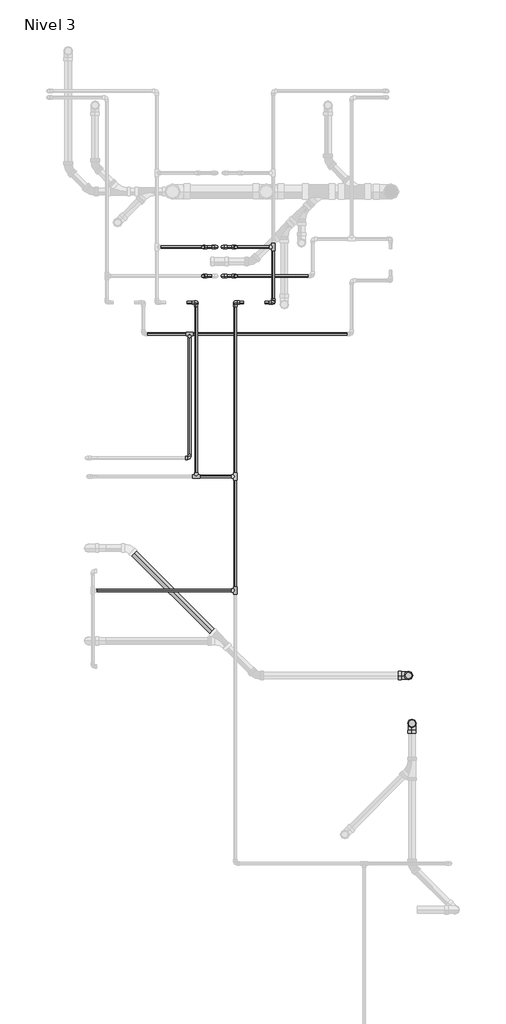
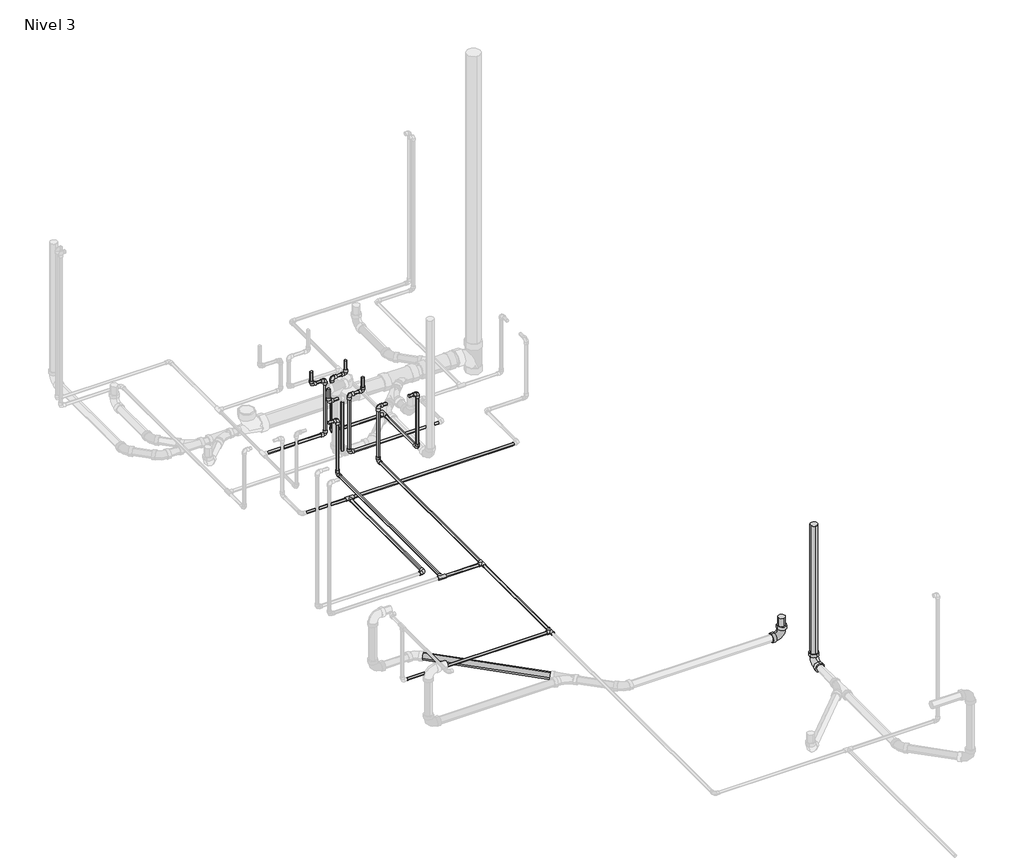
# One storey, part 7 of 9: 33 pipe segments, 24 pipe fittings.
"""IFC4 building model written with IfcOpenShell, lengths in millimetres."""

from ifc_helpers import new_model, si_unit, point, frame, frame_2d, origin, place, context, project, spatial, circle_curve, trimmed, segment, composite_curve, outline, extrude, transform, mapped, element, save
from components import pipe_fitting_ab418b84, m_codo_pvc_serie_40_9ad74631, m_codo_pvc_serie_40_ba05d404, m_codo_pvc_serie_40_dwv1_5c0ec739

model = new_model("IFC4")

# Units and contexts
model_context = context("Model", 3, world=origin())
ifc_project = project(units=[si_unit("LENGTHUNIT", "METRE", prefix="MILLI")], contexts=[model_context])

# Site, building, storey
site = spatial("IfcSite", under=ifc_project)
building = spatial("IfcBuilding", under=site)
storey = spatial("IfcBuildingStorey", under=building, Name="Nivel 3", Elevation=5450.0)

# Pipe fittings
placement = place(None, origin())
pipe_fitting_shape = pipe_fitting_ab418b84(model_context)
element("IfcPipeFitting", 1, ObjectType="M_Te - PVC - Serie 40 : Estándar", at=placement, inside=storey, context=model_context, shape_type="MappedRepresentation", body=[
    mapped(pipe_fitting_shape, transform((4584.5674476, 13135.047678, 5400.0), x_axis=(0.0, -1.0, 0.0), y_axis=(1.0, 0.0, 0.0), z_axis=(0.0, 0.0, 1.0))),
])
element("IfcPipeFitting", 2, ObjectType="M_Te - PVC - Serie 40 : Estándar", at=placement, inside=storey, context=model_context, shape_type="MappedRepresentation", body=[
    mapped(pipe_fitting_shape, transform((4263.6339186, 14068.3044589, 5400.0), x_axis=(1.0, 0.0, 0.0), y_axis=(0.0, -1.0, 0.0), z_axis=(0.0, 0.0, -1.0))),
])
element("IfcPipeFitting", 3, ObjectType="M_Te - PVC - Serie 40 : Estándar", at=placement, inside=storey, context=model_context, shape_type="MappedRepresentation", body=[
    mapped(pipe_fitting_shape, transform((4584.5674476, 14068.3044589, 5400.0), x_axis=(0.0, 1.0, 0.0), y_axis=(1.0, 0.0, 0.0), z_axis=(0.0, 0.0, -1.0))),
])
element("IfcPipeFitting", 4, ObjectType="M_Te - PVC - Serie 40 : Estándar", at=placement, inside=storey, context=model_context, shape_type="MappedRepresentation", body=[
    mapped(pipe_fitting_shape, transform((4894.5674476, 15948.3784167, 5400.0), x_axis=(0.0, -1.0, 0.0), y_axis=(1.0, 0.0, 0.0), z_axis=(0.0, 0.0, 1.0))),
])
element("IfcPipeFitting", 5, ObjectType="M_Te - PVC - Serie 40 : Estándar", at=placement, inside=storey, context=model_context, shape_type="MappedRepresentation", body=[
    mapped(pipe_fitting_shape, transform((4209.5674476, 15236.3878958, 5370.0), x_axis=(1.0, 0.0, 0.0), y_axis=(0.0, 1.0, 0.0), z_axis=(0.0, 0.0, 1.0))),
])
m_codo_pvc_serie_40_shape = m_codo_pvc_serie_40_9ad74631(model_context)
element("IfcPipeFitting", 6, ObjectType="M_Codo - PVC - Serie 40 : Estándar", at=placement, inside=storey, context=model_context, shape_type="MappedRepresentation", body=[
    mapped(m_codo_pvc_serie_40_shape, transform((4320.052369, 15948.3784167, 5850.0), x_axis=(0.0, 0.0, -1.0), y_axis=(1.0, 0.0, 0.0), z_axis=(0.0, -1.0, 0.0))),
])
element("IfcPipeFitting", 7, ObjectType="M_Codo - PVC - Serie 40 : Estándar", at=placement, inside=storey, context=model_context, shape_type="MappedRepresentation", body=[
    mapped(m_codo_pvc_serie_40_shape, transform((4428.802369, 15948.3784167, 5850.0), x_axis=(1.0, 0.0, 0.0), y_axis=(0.0, 0.0, -1.0), z_axis=(0.0, 1.0, 0.0))),
])
element("IfcPipeFitting", 8, ObjectType="M_Codo - PVC - Serie 40 : Estándar", at=placement, inside=storey, context=model_context, shape_type="MappedRepresentation", body=[
    mapped(m_codo_pvc_serie_40_shape, transform((4428.802369, 15948.3784167, 5400.0), x_axis=(0.0, 0.0, -1.0), y_axis=(-1.0, 0.0, 0.0), z_axis=(0.0, 1.0, 0.0))),
])
element("IfcPipeFitting", 9, ObjectType="M_Codo - PVC - Serie 40 : Estándar", at=placement, inside=storey, context=model_context, shape_type="MappedRepresentation", body=[
    mapped(m_codo_pvc_serie_40_shape, transform((4263.6339186, 15493.3784167, 5400.0), x_axis=(0.0, 0.0, -1.0), y_axis=(0.0, -1.0, 0.0), z_axis=(-1.0, 0.0, 0.0))),
])
element("IfcPipeFitting", 10, ObjectType="M_Codo - PVC - Serie 40 : Estándar", at=placement, inside=storey, context=model_context, shape_type="MappedRepresentation", body=[
    mapped(m_codo_pvc_serie_40_shape, transform((4584.5674476, 15493.3784167, 5400.0), x_axis=(0.0, 1.0, 0.0), y_axis=(0.0, 0.0, 1.0), z_axis=(1.0, 0.0, 0.0))),
])
element("IfcPipeFitting", 11, ObjectType="M_Codo - PVC - Serie 40 : Estándar", at=placement, inside=storey, context=model_context, shape_type="MappedRepresentation", body=[
    mapped(m_codo_pvc_serie_40_shape, transform((4584.5674476, 15493.3784167, 5850.0), x_axis=(0.0, 0.0, 1.0), y_axis=(1.0, 0.0, 0.0), z_axis=(0.0, 1.0, 0.0))),
])
element("IfcPipeFitting", 12, ObjectType="M_Codo - PVC - Serie 40 : Estándar", at=placement, inside=storey, context=model_context, shape_type="MappedRepresentation", body=[
    mapped(m_codo_pvc_serie_40_shape, transform((4894.5674476, 15493.3784167, 5850.0), x_axis=(1.0, 0.0, 0.0), y_axis=(0.0, 0.0, -1.0), z_axis=(0.0, 1.0, 0.0))),
])
element("IfcPipeFitting", 13, ObjectType="M_Codo - PVC - Serie 40 : Estándar", at=placement, inside=storey, context=model_context, shape_type="MappedRepresentation", body=[
    mapped(m_codo_pvc_serie_40_shape, transform((4894.5674476, 15493.3784167, 5400.0), x_axis=(0.0, 0.0, -1.0), y_axis=(0.0, 1.0, 0.0), z_axis=(1.0, 0.0, 0.0))),
])
element("IfcPipeFitting", 14, ObjectType="M_Codo - PVC - Serie 40 : Estándar", at=placement, inside=storey, context=model_context, shape_type="MappedRepresentation", body=[
    mapped(m_codo_pvc_serie_40_shape, transform((4263.6339186, 15493.3784167, 5850.0), x_axis=(0.0, 0.0, 1.0), y_axis=(-1.0, 0.0, 0.0), z_axis=(0.0, -1.0, 0.0))),
])
element("IfcPipeFitting", 15, ObjectType="M_Codo - PVC - Serie 40 : Estándar", at=placement, inside=storey, context=model_context, shape_type="MappedRepresentation", body=[
    mapped(m_codo_pvc_serie_40_shape, transform((4589.8538958, 15948.3784167, 5850.0), x_axis=(0.0, 0.0, -1.0), y_axis=(-1.0, 0.0, 0.0), z_axis=(0.0, 1.0, 0.0))),
])
element("IfcPipeFitting", 16, ObjectType="M_Codo - PVC - Serie 40 : Estándar", at=placement, inside=storey, context=model_context, shape_type="MappedRepresentation", body=[
    mapped(m_codo_pvc_serie_40_shape, transform((4482.3538958, 15948.3784167, 5850.0), x_axis=(-1.0, 0.0, 0.0), y_axis=(0.0, 0.0, -1.0), z_axis=(0.0, -1.0, 0.0))),
])
element("IfcPipeFitting", 17, ObjectType="M_Codo - PVC - Serie 40 : Estándar", at=placement, inside=storey, context=model_context, shape_type="MappedRepresentation", body=[
    mapped(m_codo_pvc_serie_40_shape, transform((4482.3538958, 15948.3784167, 5400.0), x_axis=(0.0, 0.0, -1.0), y_axis=(1.0, 0.0, 0.0), z_axis=(0.0, -1.0, 0.0))),
])
element("IfcPipeFitting", 18, ObjectType="M_Codo - PVC - Serie 40 : Estándar", at=placement, inside=storey, context=model_context, shape_type="MappedRepresentation", body=[
    mapped(m_codo_pvc_serie_40_shape, transform((4209.5674476, 14218.3044589, 5370.0), x_axis=(1.0, 0.0, 0.0), y_axis=(0.0, 1.0, 0.0), z_axis=(0.0, 0.0, 1.0))),
])
element("IfcPipeFitting", 19, ObjectType="M_Codo - PVC - Serie 40 : Estándar", at=placement, inside=storey, context=model_context, shape_type="MappedRepresentation", body=[
    mapped(m_codo_pvc_serie_40_shape, transform((4482.3538958, 15711.6215833, 5370.0), x_axis=(0.0, 0.0, -1.0), y_axis=(1.0, 0.0, 0.0), z_axis=(0.0, -1.0, 0.0))),
])
m_codo_pvc_serie_40_2_shape = m_codo_pvc_serie_40_ba05d404(model_context)
element("IfcPipeFitting", 20, ObjectType="M_Codo - PVC - Serie 40 : Estándar", at=placement, inside=storey, context=model_context, shape_type="MappedRepresentation", body=[
    mapped(m_codo_pvc_serie_40_2_shape, transform((4589.8538958, 15711.6215833, 5850.0), x_axis=(0.0, 0.0, -1.0), y_axis=(1.0, 0.0, 0.0), z_axis=(0.0, -1.0, 0.0))),
])
element("IfcPipeFitting", 21, ObjectType="M_Codo - PVC - Serie 40 : Estándar", at=placement, inside=storey, context=model_context, shape_type="MappedRepresentation", body=[
    mapped(m_codo_pvc_serie_40_2_shape, transform((4482.3538958, 15711.6215833, 5850.0), x_axis=(-1.0, 0.0, 0.0), y_axis=(0.0, 0.0, 1.0), z_axis=(0.0, 1.0, 0.0))),
])
element("IfcPipeFitting", 22, ObjectType="M_Codo - PVC - Serie 40 : Estándar", at=placement, inside=storey, context=model_context, shape_type="MappedRepresentation", body=[
    mapped(m_codo_pvc_serie_40_2_shape, transform((4320.052369, 15711.6215833, 5850.0), x_axis=(0.0, 0.0, -1.0), y_axis=(-1.0, 0.0, 0.0), z_axis=(0.0, 1.0, 0.0))),
])
m_codo_pvc_serie_40_dwv1_shape = m_codo_pvc_serie_40_dwv1_5c0ec739(model_context)
element("IfcPipeFitting", 23, ObjectType="M_Codo - PVC - Serie 40 - DWV1 : Estándar 2", at=placement, inside=storey, context=model_context, shape_type="MappedRepresentation", body=[
    mapped(m_codo_pvc_serie_40_dwv1_shape, transform((6034.2551231, 12044.3420457, 5300.0), x_axis=(0.0, 1.0, 0.0), y_axis=(0.0, 0.0, 1.0), z_axis=(1.0, 0.0, 0.0))),
])
element("IfcPipeFitting", 24, ObjectType="M_Codo - PVC - Serie 40 - DWV1 : Estándar 2", at=placement, inside=storey, context=model_context, shape_type="MappedRepresentation", body=[
    mapped(m_codo_pvc_serie_40_dwv1_shape, transform((6005.8120302, 12436.942368, 5300.0), x_axis=(1.0, 0.0, 0.0), y_axis=(0.0, 0.0, 1.0), z_axis=(0.0, -1.0, 0.0))),
])

# Pipe segments
element("IfcPipeSegment", 25, ObjectType="Tuberia PVC Agua Fria", at=placement, inside=storey, context=model_context, shape_type="SweptSolid", body=[
    extrude(outline(composite_curve([segment(trimmed(circle_curve(frame_2d((5400.0, 4584.5674476)), 10.31875), [point((5400.0, 4594.8861976))], [point((5410.31875, 4584.5674476))], False, "CARTESIAN"), True, "CONTINUOUS"), segment(trimmed(circle_curve(frame_2d((5400.0, 4584.5674476)), 10.31875), [point((5410.31875, 4584.5674476))], [point((5400.0, 4574.2486976))], False, "CARTESIAN"), True, "CONTINUOUS"), segment(trimmed(circle_curve(frame_2d((5400.0, 4584.5674476)), 10.31875), [point((5400.0, 4574.2486976))], [point((5389.68125, 4584.5674476))], False, "CARTESIAN"), True, "CONTINUOUS"), segment(trimmed(circle_curve(frame_2d((5400.0, 4584.5674476)), 10.31875), [point((5389.68125, 4584.5674476))], [point((5400.0, 4594.8861976))], False, "CARTESIAN"), True, "CONTINUOUS")], self_intersect=False)), frame((0.0, 13165.5078343, 0.0), z_axis=(0.0, 1.0, 0.0), x_axis=(0.0, 0.0, 1.0)), (0.0, 0.0, 1.0), 872.3364684),
])
element("IfcPipeSegment", 26, ObjectType="Tuberia PVC Agua Fria", at=placement, inside=storey, context=model_context, shape_type="SweptSolid", body=[
    extrude(outline(composite_curve([segment(trimmed(circle_curve(frame_2d((13135.047678, 5400.0)), 10.31875), [point((13145.366428, 5400.0))], [point((13135.047678, 5389.68125))], False, "CARTESIAN"), True, "CONTINUOUS"), segment(trimmed(circle_curve(frame_2d((13135.047678, 5400.0)), 10.31875), [point((13135.047678, 5389.68125))], [point((13124.728928, 5400.0))], False, "CARTESIAN"), True, "CONTINUOUS"), segment(trimmed(circle_curve(frame_2d((13135.047678, 5400.0)), 10.31875), [point((13124.728928, 5400.0))], [point((13135.047678, 5410.31875))], False, "CARTESIAN"), True, "CONTINUOUS"), segment(trimmed(circle_curve(frame_2d((13135.047678, 5400.0)), 10.31875), [point((13135.047678, 5410.31875))], [point((13145.366428, 5400.0))], False, "CARTESIAN"), True, "CONTINUOUS")], self_intersect=False)), frame((3447.9684476, 0.0, 0.0), z_axis=(1.0, 0.0, 0.0), x_axis=(0.0, 1.0, 0.0)), (0.0, 0.0, 1.0), 1106.1388437),
])
element("IfcPipeSegment", 27, ObjectType="Tuberia PVC Agua Fria", at=placement, inside=storey, context=model_context, shape_type="SweptSolid", body=[
    extrude(outline(composite_curve([segment(trimmed(circle_curve(frame_2d((15948.3784167, 5850.0)), 10.31875), [point((15938.0596667, 5850.0))], [point((15948.3784167, 5860.31875))], False, "CARTESIAN"), True, "CONTINUOUS"), segment(trimmed(circle_curve(frame_2d((15948.3784167, 5850.0)), 10.31875), [point((15948.3784167, 5860.31875))], [point((15958.6971667, 5850.0))], False, "CARTESIAN"), True, "CONTINUOUS"), segment(trimmed(circle_curve(frame_2d((15948.3784167, 5850.0)), 10.31875), [point((15958.6971667, 5850.0))], [point((15948.3784167, 5839.68125))], False, "CARTESIAN"), True, "CONTINUOUS"), segment(trimmed(circle_curve(frame_2d((15948.3784167, 5850.0)), 10.31875), [point((15948.3784167, 5839.68125))], [point((15938.0596667, 5850.0))], False, "CARTESIAN"), True, "CONTINUOUS")], self_intersect=False)), frame((4353.453369, 0.0, 0.0), z_axis=(1.0, 0.0, 0.0), x_axis=(0.0, 1.0, 0.0)), (0.0, 0.0, 1.0), 41.948),
])
element("IfcPipeSegment", 28, ObjectType="Tuberia PVC Agua Fria", at=placement, inside=storey, context=model_context, shape_type="SweptSolid", body=[
    extrude(outline(composite_curve([segment(trimmed(circle_curve(frame_2d((4320.052369, 15948.3784167)), 10.31875), [point((4330.371119, 15948.3784167))], [point((4320.052369, 15938.0596667))], False, "CARTESIAN"), True, "CONTINUOUS"), segment(trimmed(circle_curve(frame_2d((4320.052369, 15948.3784167)), 10.31875), [point((4320.052369, 15938.0596667))], [point((4309.733619, 15948.3784167))], False, "CARTESIAN"), True, "CONTINUOUS"), segment(trimmed(circle_curve(frame_2d((4320.052369, 15948.3784167)), 10.31875), [point((4309.733619, 15948.3784167))], [point((4320.052369, 15958.6971667))], False, "CARTESIAN"), True, "CONTINUOUS"), segment(trimmed(circle_curve(frame_2d((4320.052369, 15948.3784167)), 10.31875), [point((4320.052369, 15958.6971667))], [point((4330.371119, 15948.3784167))], False, "CARTESIAN"), True, "CONTINUOUS")], self_intersect=False)), frame((0.0, 0.0, 5883.401), z_axis=(0.0, 0.0, 1.0), x_axis=(1.0, 0.0, 0.0)), (0.0, 0.0, 1.0), 74.0983614),
])
element("IfcPipeSegment", 29, ObjectType="Tuberia PVC Agua Fria", at=placement, inside=storey, context=model_context, shape_type="SweptSolid", body=[
    extrude(outline(composite_curve([segment(trimmed(circle_curve(frame_2d((15948.3784167, 5400.0)), 10.31875), [point((15958.6971667, 5400.0))], [point((15948.3784167, 5389.68125))], False, "CARTESIAN"), True, "CONTINUOUS"), segment(trimmed(circle_curve(frame_2d((15948.3784167, 5400.0)), 10.31875), [point((15948.3784167, 5389.68125))], [point((15938.0596667, 5400.0))], False, "CARTESIAN"), True, "CONTINUOUS"), segment(trimmed(circle_curve(frame_2d((15948.3784167, 5400.0)), 10.31875), [point((15938.0596667, 5400.0))], [point((15948.3784167, 5410.31875))], False, "CARTESIAN"), True, "CONTINUOUS"), segment(trimmed(circle_curve(frame_2d((15948.3784167, 5400.0)), 10.31875), [point((15948.3784167, 5410.31875))], [point((15958.6971667, 5400.0))], False, "CARTESIAN"), True, "CONTINUOUS")], self_intersect=False)), frame((3970.5125253, 0.0, 0.0), z_axis=(1.0, 0.0, 0.0), x_axis=(0.0, 1.0, 0.0)), (0.0, 0.0, 1.0), 424.8888438),
])
element("IfcPipeSegment", 30, ObjectType="Tuberia PVC Agua Fria", at=placement, inside=storey, context=model_context, shape_type="SweptSolid", body=[
    extrude(outline(composite_curve([segment(trimmed(circle_curve(frame_2d((4428.802369, 15948.3784167)), 10.31875), [point((4439.121119, 15948.3784167))], [point((4428.802369, 15938.0596667))], False, "CARTESIAN"), True, "CONTINUOUS"), segment(trimmed(circle_curve(frame_2d((4428.802369, 15948.3784167)), 10.31875), [point((4428.802369, 15938.0596667))], [point((4418.483619, 15948.3784167))], False, "CARTESIAN"), True, "CONTINUOUS"), segment(trimmed(circle_curve(frame_2d((4428.802369, 15948.3784167)), 10.31875), [point((4418.483619, 15948.3784167))], [point((4428.802369, 15958.6971667))], False, "CARTESIAN"), True, "CONTINUOUS"), segment(trimmed(circle_curve(frame_2d((4428.802369, 15948.3784167)), 10.31875), [point((4428.802369, 15958.6971667))], [point((4439.121119, 15948.3784167))], False, "CARTESIAN"), True, "CONTINUOUS")], self_intersect=False)), frame((0.0, 0.0, 5433.401), z_axis=(0.0, 0.0, 1.0), x_axis=(1.0, 0.0, 0.0)), (0.0, 0.0, 1.0), 383.198),
])
element("IfcPipeSegment", 31, ObjectType="Tuberia PVC Agua Fria", at=placement, inside=storey, context=model_context, shape_type="SweptSolid", body=[
    extrude(outline(composite_curve([segment(trimmed(circle_curve(frame_2d((5400.0, 4263.6339186)), 10.31875), [point((5400.0, 4273.9526686))], [point((5410.31875, 4263.6339186))], False, "CARTESIAN"), True, "CONTINUOUS"), segment(trimmed(circle_curve(frame_2d((5400.0, 4263.6339186)), 10.31875), [point((5410.31875, 4263.6339186))], [point((5400.0, 4253.3151686))], False, "CARTESIAN"), True, "CONTINUOUS"), segment(trimmed(circle_curve(frame_2d((5400.0, 4263.6339186)), 10.31875), [point((5400.0, 4253.3151686))], [point((5389.68125, 4263.6339186))], False, "CARTESIAN"), True, "CONTINUOUS"), segment(trimmed(circle_curve(frame_2d((5400.0, 4263.6339186)), 10.31875), [point((5389.68125, 4263.6339186))], [point((5400.0, 4273.9526686))], False, "CARTESIAN"), True, "CONTINUOUS")], self_intersect=False)), frame((0.0, 14098.7646151, 0.0), z_axis=(0.0, 1.0, 0.0), x_axis=(0.0, 0.0, 1.0)), (0.0, 0.0, 1.0), 1361.2128015),
])
element("IfcPipeSegment", 32, ObjectType="Tuberia PVC Agua Fria", at=placement, inside=storey, context=model_context, shape_type="SweptSolid", body=[
    extrude(outline(composite_curve([segment(trimmed(circle_curve(frame_2d((4263.6339186, 15493.3784167)), 10.31875), [point((4273.9526686, 15493.3784167))], [point((4263.6339186, 15483.0596667))], False, "CARTESIAN"), True, "CONTINUOUS"), segment(trimmed(circle_curve(frame_2d((4263.6339186, 15493.3784167)), 10.31875), [point((4263.6339186, 15483.0596667))], [point((4253.3151686, 15493.3784167))], False, "CARTESIAN"), True, "CONTINUOUS"), segment(trimmed(circle_curve(frame_2d((4263.6339186, 15493.3784167)), 10.31875), [point((4253.3151686, 15493.3784167))], [point((4263.6339186, 15503.6971667))], False, "CARTESIAN"), True, "CONTINUOUS"), segment(trimmed(circle_curve(frame_2d((4263.6339186, 15493.3784167)), 10.31875), [point((4263.6339186, 15503.6971667))], [point((4273.9526686, 15493.3784167))], False, "CARTESIAN"), True, "CONTINUOUS")], self_intersect=False)), frame((0.0, 0.0, 5433.401), z_axis=(0.0, 0.0, 1.0), x_axis=(1.0, 0.0, 0.0)), (0.0, 0.0, 1.0), 383.198),
])
element("IfcPipeSegment", 33, ObjectType="Tuberia PVC Agua Fria", at=placement, inside=storey, context=model_context, shape_type="SweptSolid", body=[
    extrude(outline(composite_curve([segment(trimmed(circle_curve(frame_2d((14068.3044589, 5400.0)), 10.31875), [point((14078.6232089, 5400.0))], [point((14068.3044589, 5389.68125))], False, "CARTESIAN"), True, "CONTINUOUS"), segment(trimmed(circle_curve(frame_2d((14068.3044589, 5400.0)), 10.31875), [point((14068.3044589, 5389.68125))], [point((14057.9857089, 5400.0))], False, "CARTESIAN"), True, "CONTINUOUS"), segment(trimmed(circle_curve(frame_2d((14068.3044589, 5400.0)), 10.31875), [point((14057.9857089, 5400.0))], [point((14068.3044589, 5410.31875))], False, "CARTESIAN"), True, "CONTINUOUS"), segment(trimmed(circle_curve(frame_2d((14068.3044589, 5400.0)), 10.31875), [point((14068.3044589, 5410.31875))], [point((14078.6232089, 5400.0))], False, "CARTESIAN"), True, "CONTINUOUS")], self_intersect=False)), frame((4294.0940748, 0.0, 0.0), z_axis=(1.0, 0.0, 0.0), x_axis=(0.0, 1.0, 0.0)), (0.0, 0.0, 1.0), 260.0132166),
])
element("IfcPipeSegment", 34, ObjectType="Tuberia PVC Agua Fria", at=placement, inside=storey, context=model_context, shape_type="SweptSolid", body=[
    extrude(outline(composite_curve([segment(trimmed(circle_curve(frame_2d((15493.3784167, 5850.0)), 10.31875), [point((15483.0596667, 5850.0))], [point((15493.3784167, 5860.31875))], False, "CARTESIAN"), True, "CONTINUOUS"), segment(trimmed(circle_curve(frame_2d((15493.3784167, 5850.0)), 10.31875), [point((15493.3784167, 5860.31875))], [point((15503.6971667, 5850.0))], False, "CARTESIAN"), True, "CONTINUOUS"), segment(trimmed(circle_curve(frame_2d((15493.3784167, 5850.0)), 10.31875), [point((15503.6971667, 5850.0))], [point((15493.3784167, 5839.68125))], False, "CARTESIAN"), True, "CONTINUOUS"), segment(trimmed(circle_curve(frame_2d((15493.3784167, 5850.0)), 10.31875), [point((15493.3784167, 5839.68125))], [point((15483.0596667, 5850.0))], False, "CARTESIAN"), True, "CONTINUOUS")], self_intersect=False)), frame((4190.8431438, 0.0, 0.0), z_axis=(1.0, 0.0, 0.0), x_axis=(0.0, 1.0, 0.0)), (0.0, 0.0, 1.0), 39.3897748),
])
element("IfcPipeSegment", 35, ObjectType="Tuberia PVC Agua Fria", at=placement, inside=storey, context=model_context, shape_type="SweptSolid", body=[
    extrude(outline(composite_curve([segment(trimmed(circle_curve(frame_2d((5400.0, 4584.5674476)), 10.31875), [point((5400.0, 4594.8861976))], [point((5410.31875, 4584.5674476))], False, "CARTESIAN"), True, "CONTINUOUS"), segment(trimmed(circle_curve(frame_2d((5400.0, 4584.5674476)), 10.31875), [point((5410.31875, 4584.5674476))], [point((5400.0, 4574.2486976))], False, "CARTESIAN"), True, "CONTINUOUS"), segment(trimmed(circle_curve(frame_2d((5400.0, 4584.5674476)), 10.31875), [point((5400.0, 4574.2486976))], [point((5389.68125, 4584.5674476))], False, "CARTESIAN"), True, "CONTINUOUS"), segment(trimmed(circle_curve(frame_2d((5400.0, 4584.5674476)), 10.31875), [point((5389.68125, 4584.5674476))], [point((5400.0, 4594.8861976))], False, "CARTESIAN"), True, "CONTINUOUS")], self_intersect=False)), frame((0.0, 14098.7646151, 0.0), z_axis=(0.0, 1.0, 0.0), x_axis=(0.0, 0.0, 1.0)), (0.0, 0.0, 1.0), 1361.2128015),
])
element("IfcPipeSegment", 36, ObjectType="Tuberia PVC Agua Fria", at=placement, inside=storey, context=model_context, shape_type="SweptSolid", body=[
    extrude(outline(composite_curve([segment(trimmed(circle_curve(frame_2d((15493.3784167, 5850.0)), 10.31875), [point((15483.0596667, 5850.0))], [point((15493.3784167, 5860.31875))], False, "CARTESIAN"), True, "CONTINUOUS"), segment(trimmed(circle_curve(frame_2d((15493.3784167, 5850.0)), 10.31875), [point((15493.3784167, 5860.31875))], [point((15503.6971667, 5850.0))], False, "CARTESIAN"), True, "CONTINUOUS"), segment(trimmed(circle_curve(frame_2d((15493.3784167, 5850.0)), 10.31875), [point((15503.6971667, 5850.0))], [point((15493.3784167, 5839.68125))], False, "CARTESIAN"), True, "CONTINUOUS"), segment(trimmed(circle_curve(frame_2d((15493.3784167, 5850.0)), 10.31875), [point((15493.3784167, 5839.68125))], [point((15483.0596667, 5850.0))], False, "CARTESIAN"), True, "CONTINUOUS")], self_intersect=False)), frame((4828.3535926, 0.0, 0.0), z_axis=(1.0, 0.0, 0.0), x_axis=(0.0, 1.0, 0.0)), (0.0, 0.0, 1.0), 32.812855),
])
element("IfcPipeSegment", 37, ObjectType="Tuberia PVC Agua Fria", at=placement, inside=storey, context=model_context, shape_type="SweptSolid", body=[
    extrude(outline(composite_curve([segment(trimmed(circle_curve(frame_2d((4584.5674476, 15493.3784167)), 10.31875), [point((4574.2486976, 15493.3784167))], [point((4584.5674476, 15503.6971667))], False, "CARTESIAN"), True, "CONTINUOUS"), segment(trimmed(circle_curve(frame_2d((4584.5674476, 15493.3784167)), 10.31875), [point((4584.5674476, 15503.6971667))], [point((4594.8861976, 15493.3784167))], False, "CARTESIAN"), True, "CONTINUOUS"), segment(trimmed(circle_curve(frame_2d((4584.5674476, 15493.3784167)), 10.31875), [point((4594.8861976, 15493.3784167))], [point((4584.5674476, 15483.0596667))], False, "CARTESIAN"), True, "CONTINUOUS"), segment(trimmed(circle_curve(frame_2d((4584.5674476, 15493.3784167)), 10.31875), [point((4584.5674476, 15483.0596667))], [point((4574.2486976, 15493.3784167))], False, "CARTESIAN"), True, "CONTINUOUS")], self_intersect=False)), frame((0.0, 0.0, 5433.401), z_axis=(0.0, 0.0, 1.0), x_axis=(1.0, 0.0, 0.0)), (0.0, 0.0, 1.0), 383.198),
])
element("IfcPipeSegment", 38, ObjectType="Tuberia PVC Agua Fria", at=placement, inside=storey, context=model_context, shape_type="SweptSolid", body=[
    extrude(outline(composite_curve([segment(trimmed(circle_curve(frame_2d((4894.5674476, 15493.3784167)), 10.31875), [point((4904.8861976, 15493.3784167))], [point((4894.5674476, 15483.0596667))], False, "CARTESIAN"), True, "CONTINUOUS"), segment(trimmed(circle_curve(frame_2d((4894.5674476, 15493.3784167)), 10.31875), [point((4894.5674476, 15483.0596667))], [point((4884.2486976, 15493.3784167))], False, "CARTESIAN"), True, "CONTINUOUS"), segment(trimmed(circle_curve(frame_2d((4894.5674476, 15493.3784167)), 10.31875), [point((4884.2486976, 15493.3784167))], [point((4894.5674476, 15503.6971667))], False, "CARTESIAN"), True, "CONTINUOUS"), segment(trimmed(circle_curve(frame_2d((4894.5674476, 15493.3784167)), 10.31875), [point((4894.5674476, 15503.6971667))], [point((4904.8861976, 15493.3784167))], False, "CARTESIAN"), True, "CONTINUOUS")], self_intersect=False)), frame((0.0, 0.0, 5433.401), z_axis=(0.0, 0.0, 1.0), x_axis=(1.0, 0.0, 0.0)), (0.0, 0.0, 1.0), 383.198),
])
element("IfcPipeSegment", 39, ObjectType="Tuberia PVC Agua Fria", at=placement, inside=storey, context=model_context, shape_type="SweptSolid", body=[
    extrude(outline(composite_curve([segment(trimmed(circle_curve(frame_2d((15948.3784167, 5850.0)), 10.31875), [point((15958.6971667, 5850.0))], [point((15948.3784167, 5839.68125))], False, "CARTESIAN"), True, "CONTINUOUS"), segment(trimmed(circle_curve(frame_2d((15948.3784167, 5850.0)), 10.31875), [point((15948.3784167, 5839.68125))], [point((15938.0596667, 5850.0))], False, "CARTESIAN"), True, "CONTINUOUS"), segment(trimmed(circle_curve(frame_2d((15948.3784167, 5850.0)), 10.31875), [point((15938.0596667, 5850.0))], [point((15948.3784167, 5860.31875))], False, "CARTESIAN"), True, "CONTINUOUS"), segment(trimmed(circle_curve(frame_2d((15948.3784167, 5850.0)), 10.31875), [point((15948.3784167, 5860.31875))], [point((15958.6971667, 5850.0))], False, "CARTESIAN"), True, "CONTINUOUS")], self_intersect=False)), frame((4515.7548958, 0.0, 0.0), z_axis=(1.0, 0.0, 0.0), x_axis=(0.0, 1.0, 0.0)), (0.0, 0.0, 1.0), 40.698),
])
element("IfcPipeSegment", 40, ObjectType="Tuberia PVC Agua Fria", at=placement, inside=storey, context=model_context, shape_type="SweptSolid", body=[
    extrude(outline(composite_curve([segment(trimmed(circle_curve(frame_2d((4589.8538958, 15948.3784167)), 10.31875), [point((4600.1726458, 15948.3784167))], [point((4589.8538958, 15938.0596667))], False, "CARTESIAN"), True, "CONTINUOUS"), segment(trimmed(circle_curve(frame_2d((4589.8538958, 15948.3784167)), 10.31875), [point((4589.8538958, 15938.0596667))], [point((4579.5351458, 15948.3784167))], False, "CARTESIAN"), True, "CONTINUOUS"), segment(trimmed(circle_curve(frame_2d((4589.8538958, 15948.3784167)), 10.31875), [point((4579.5351458, 15948.3784167))], [point((4589.8538958, 15958.6971667))], False, "CARTESIAN"), True, "CONTINUOUS"), segment(trimmed(circle_curve(frame_2d((4589.8538958, 15948.3784167)), 10.31875), [point((4589.8538958, 15958.6971667))], [point((4600.1726458, 15948.3784167))], False, "CARTESIAN"), True, "CONTINUOUS")], self_intersect=False)), frame((0.0, 0.0, 5883.401), z_axis=(0.0, 0.0, 1.0), x_axis=(1.0, 0.0, 0.0)), (0.0, 0.0, 1.0), 74.0983614),
])
element("IfcPipeSegment", 41, ObjectType="Tuberia PVC Agua Fria", at=placement, inside=storey, context=model_context, shape_type="SweptSolid", body=[
    extrude(outline(composite_curve([segment(trimmed(circle_curve(frame_2d((15948.3784167, 5400.0)), 10.31875), [point((15938.0596667, 5400.0))], [point((15948.3784167, 5410.31875))], False, "CARTESIAN"), True, "CONTINUOUS"), segment(trimmed(circle_curve(frame_2d((15948.3784167, 5400.0)), 10.31875), [point((15948.3784167, 5410.31875))], [point((15958.6971667, 5400.0))], False, "CARTESIAN"), True, "CONTINUOUS"), segment(trimmed(circle_curve(frame_2d((15948.3784167, 5400.0)), 10.31875), [point((15958.6971667, 5400.0))], [point((15948.3784167, 5389.68125))], False, "CARTESIAN"), True, "CONTINUOUS"), segment(trimmed(circle_curve(frame_2d((15948.3784167, 5400.0)), 10.31875), [point((15948.3784167, 5389.68125))], [point((15938.0596667, 5400.0))], False, "CARTESIAN"), True, "CONTINUOUS")], self_intersect=False)), frame((4515.7548958, 0.0, 0.0), z_axis=(1.0, 0.0, 0.0), x_axis=(0.0, 1.0, 0.0)), (0.0, 0.0, 1.0), 348.3523956),
])
element("IfcPipeSegment", 42, ObjectType="Tuberia PVC Agua Fria", at=placement, inside=storey, context=model_context, shape_type="SweptSolid", body=[
    extrude(outline(composite_curve([segment(trimmed(circle_curve(frame_2d((4482.3538958, 15948.3784167)), 10.31875), [point((4492.6726458, 15948.3784167))], [point((4482.3538958, 15938.0596667))], False, "CARTESIAN"), True, "CONTINUOUS"), segment(trimmed(circle_curve(frame_2d((4482.3538958, 15948.3784167)), 10.31875), [point((4482.3538958, 15938.0596667))], [point((4472.0351458, 15948.3784167))], False, "CARTESIAN"), True, "CONTINUOUS"), segment(trimmed(circle_curve(frame_2d((4482.3538958, 15948.3784167)), 10.31875), [point((4472.0351458, 15948.3784167))], [point((4482.3538958, 15958.6971667))], False, "CARTESIAN"), True, "CONTINUOUS"), segment(trimmed(circle_curve(frame_2d((4482.3538958, 15948.3784167)), 10.31875), [point((4482.3538958, 15958.6971667))], [point((4492.6726458, 15948.3784167))], False, "CARTESIAN"), True, "CONTINUOUS")], self_intersect=False)), frame((0.0, 0.0, 5433.401), z_axis=(0.0, 0.0, 1.0), x_axis=(1.0, 0.0, 0.0)), (0.0, 0.0, 1.0), 383.198),
])
element("IfcPipeSegment", 43, ObjectType="Tuberia PVC Agua Fria", at=placement, inside=storey, context=model_context, shape_type="SweptSolid", body=[
    extrude(outline(composite_curve([segment(trimmed(circle_curve(frame_2d((5400.0, 4894.5674476)), 10.31875), [point((5400.0, 4904.8861976))], [point((5410.31875, 4894.5674476))], False, "CARTESIAN"), True, "CONTINUOUS"), segment(trimmed(circle_curve(frame_2d((5400.0, 4894.5674476)), 10.31875), [point((5410.31875, 4894.5674476))], [point((5400.0, 4884.2486976))], False, "CARTESIAN"), True, "CONTINUOUS"), segment(trimmed(circle_curve(frame_2d((5400.0, 4894.5674476)), 10.31875), [point((5400.0, 4884.2486976))], [point((5389.68125, 4894.5674476))], False, "CARTESIAN"), True, "CONTINUOUS"), segment(trimmed(circle_curve(frame_2d((5400.0, 4894.5674476)), 10.31875), [point((5389.68125, 4894.5674476))], [point((5400.0, 4904.8861976))], False, "CARTESIAN"), True, "CONTINUOUS")], self_intersect=False)), frame((0.0, 15526.7794167, 0.0), z_axis=(0.0, 1.0, 0.0), x_axis=(0.0, 0.0, 1.0)), (0.0, 0.0, 1.0), 391.1388437),
])
element("IfcPipeSegment", 44, ObjectType="Tuberia PVC Agua Fria", at=placement, inside=storey, context=model_context, shape_type="SweptSolid", body=[
    extrude(outline(composite_curve([segment(trimmed(circle_curve(frame_2d((15493.3784167, 5850.0)), 10.31875), [point((15483.0596667, 5850.0))], [point((15493.3784167, 5860.31875))], False, "CARTESIAN"), True, "CONTINUOUS"), segment(trimmed(circle_curve(frame_2d((15493.3784167, 5850.0)), 10.31875), [point((15493.3784167, 5860.31875))], [point((15503.6971667, 5850.0))], False, "CARTESIAN"), True, "CONTINUOUS"), segment(trimmed(circle_curve(frame_2d((15493.3784167, 5850.0)), 10.31875), [point((15503.6971667, 5850.0))], [point((15493.3784167, 5839.68125))], False, "CARTESIAN"), True, "CONTINUOUS"), segment(trimmed(circle_curve(frame_2d((15493.3784167, 5850.0)), 10.31875), [point((15493.3784167, 5839.68125))], [point((15483.0596667, 5850.0))], False, "CARTESIAN"), True, "CONTINUOUS")], self_intersect=False)), frame((4617.9684476, 0.0, 0.0), z_axis=(1.0, 0.0, 0.0), x_axis=(0.0, 1.0, 0.0)), (0.0, 0.0, 1.0), 32.385145),
])
element("IfcPipeSegment", 45, ObjectType="Tuberia PVC Agua Caliente", at=placement, inside=storey, context=model_context, shape_type="SweptSolid", body=[
    extrude(outline(composite_curve([segment(trimmed(circle_curve(frame_2d((5370.0, 4209.5674476)), 10.31875), [point((5370.0, 4219.8861976))], [point((5380.31875, 4209.5674476))], False, "CARTESIAN"), True, "CONTINUOUS"), segment(trimmed(circle_curve(frame_2d((5370.0, 4209.5674476)), 10.31875), [point((5380.31875, 4209.5674476))], [point((5370.0, 4199.2486976))], False, "CARTESIAN"), True, "CONTINUOUS"), segment(trimmed(circle_curve(frame_2d((5370.0, 4209.5674476)), 10.31875), [point((5370.0, 4199.2486976))], [point((5359.68125, 4209.5674476))], False, "CARTESIAN"), True, "CONTINUOUS"), segment(trimmed(circle_curve(frame_2d((5370.0, 4209.5674476)), 10.31875), [point((5359.68125, 4209.5674476))], [point((5370.0, 4219.8861976))], False, "CARTESIAN"), True, "CONTINUOUS")], self_intersect=False)), frame((0.0, 14251.7054589, 0.0), z_axis=(0.0, 1.0, 0.0), x_axis=(0.0, 0.0, 1.0)), (0.0, 0.0, 1.0), 954.2222806),
])
element("IfcPipeSegment", 46, ObjectType="Tuberia PVC Agua Caliente", at=placement, inside=storey, context=model_context, shape_type="SweptSolid", body=[
    extrude(outline(composite_curve([segment(trimmed(circle_curve(frame_2d((15236.3878958, 5370.0)), 10.31875), [point((15246.7066458, 5370.0))], [point((15236.3878958, 5359.68125))], False, "CARTESIAN"), True, "CONTINUOUS"), segment(trimmed(circle_curve(frame_2d((15236.3878958, 5370.0)), 10.31875), [point((15236.3878958, 5359.68125))], [point((15226.0691458, 5370.0))], False, "CARTESIAN"), True, "CONTINUOUS"), segment(trimmed(circle_curve(frame_2d((15236.3878958, 5370.0)), 10.31875), [point((15226.0691458, 5370.0))], [point((15236.3878958, 5380.31875))], False, "CARTESIAN"), True, "CONTINUOUS"), segment(trimmed(circle_curve(frame_2d((15236.3878958, 5370.0)), 10.31875), [point((15236.3878958, 5380.31875))], [point((15246.7066458, 5370.0))], False, "CARTESIAN"), True, "CONTINUOUS")], self_intersect=False)), frame((3862.9684476, 0.0, 0.0), z_axis=(1.0, 0.0, 0.0), x_axis=(0.0, 1.0, 0.0)), (0.0, 0.0, 1.0), 316.1388438),
])
element("IfcPipeSegment", 47, ObjectType="Tuberia PVC Agua Caliente", at=placement, inside=storey, context=model_context, shape_type="SweptSolid", body=[
    extrude(outline(composite_curve([segment(trimmed(circle_curve(frame_2d((15236.3878958, 5370.0)), 10.31875), [point((15226.0691458, 5370.0))], [point((15236.3878958, 5380.31875))], False, "CARTESIAN"), True, "CONTINUOUS"), segment(trimmed(circle_curve(frame_2d((15236.3878958, 5370.0)), 10.31875), [point((15236.3878958, 5380.31875))], [point((15246.7066458, 5370.0))], False, "CARTESIAN"), True, "CONTINUOUS"), segment(trimmed(circle_curve(frame_2d((15236.3878958, 5370.0)), 10.31875), [point((15246.7066458, 5370.0))], [point((15236.3878958, 5359.68125))], False, "CARTESIAN"), True, "CONTINUOUS"), segment(trimmed(circle_curve(frame_2d((15236.3878958, 5370.0)), 10.31875), [point((15236.3878958, 5359.68125))], [point((15226.0691458, 5370.0))], False, "CARTESIAN"), True, "CONTINUOUS")], self_intersect=False)), frame((4240.0276039, 0.0, 0.0), z_axis=(1.0, 0.0, 0.0), x_axis=(0.0, 1.0, 0.0)), (0.0, 0.0, 1.0), 1266.599),
])
element("IfcPipeSegment", 48, ObjectType="Tuberia PVC Agua Caliente", at=placement, inside=storey, context=model_context, shape_type="SweptSolid", body=[
    extrude(outline(composite_curve([segment(trimmed(circle_curve(frame_2d((15711.6215833, 5850.0)), 10.31875), [point((15721.9403333, 5850.0))], [point((15711.6215833, 5839.68125))], False, "CARTESIAN"), True, "CONTINUOUS"), segment(trimmed(circle_curve(frame_2d((15711.6215833, 5850.0)), 10.31875), [point((15711.6215833, 5839.68125))], [point((15701.3028333, 5850.0))], False, "CARTESIAN"), True, "CONTINUOUS"), segment(trimmed(circle_curve(frame_2d((15711.6215833, 5850.0)), 10.31875), [point((15701.3028333, 5850.0))], [point((15711.6215833, 5860.31875))], False, "CARTESIAN"), True, "CONTINUOUS"), segment(trimmed(circle_curve(frame_2d((15711.6215833, 5850.0)), 10.31875), [point((15711.6215833, 5860.31875))], [point((15721.9403333, 5850.0))], False, "CARTESIAN"), True, "CONTINUOUS")], self_intersect=False)), frame((4515.7548958, 0.0, 0.0), z_axis=(1.0, 0.0, 0.0), x_axis=(0.0, 1.0, 0.0)), (0.0, 0.0, 1.0), 40.698),
])
element("IfcPipeSegment", 49, ObjectType="Tuberia PVC Agua Caliente", at=placement, inside=storey, context=model_context, shape_type="SweptSolid", body=[
    extrude(outline(composite_curve([segment(trimmed(circle_curve(frame_2d((4589.8538958, 15711.6215833)), 10.31875), [point((4600.1726458, 15711.6215833))], [point((4589.8538958, 15701.3028333))], False, "CARTESIAN"), True, "CONTINUOUS"), segment(trimmed(circle_curve(frame_2d((4589.8538958, 15711.6215833)), 10.31875), [point((4589.8538958, 15701.3028333))], [point((4579.5351458, 15711.6215833))], False, "CARTESIAN"), True, "CONTINUOUS"), segment(trimmed(circle_curve(frame_2d((4589.8538958, 15711.6215833)), 10.31875), [point((4579.5351458, 15711.6215833))], [point((4589.8538958, 15721.9403333))], False, "CARTESIAN"), True, "CONTINUOUS"), segment(trimmed(circle_curve(frame_2d((4589.8538958, 15711.6215833)), 10.31875), [point((4589.8538958, 15721.9403333))], [point((4600.1726458, 15711.6215833))], False, "CARTESIAN"), True, "CONTINUOUS")], self_intersect=False)), frame((0.0, 0.0, 5883.401), z_axis=(0.0, 0.0, 1.0), x_axis=(1.0, 0.0, 0.0)), (0.0, 0.0, 1.0), 74.0983614),
])
element("IfcPipeSegment", 50, ObjectType="Tuberia PVC Agua Caliente", at=placement, inside=storey, context=model_context, shape_type="SweptSolid", body=[
    extrude(outline(composite_curve([segment(trimmed(circle_curve(frame_2d((15711.6215833, 5370.0)), 10.31875), [point((15721.9403333, 5370.0))], [point((15711.6215833, 5359.68125))], False, "CARTESIAN"), True, "CONTINUOUS"), segment(trimmed(circle_curve(frame_2d((15711.6215833, 5370.0)), 10.31875), [point((15711.6215833, 5359.68125))], [point((15701.3028333, 5370.0))], False, "CARTESIAN"), True, "CONTINUOUS"), segment(trimmed(circle_curve(frame_2d((15711.6215833, 5370.0)), 10.31875), [point((15701.3028333, 5370.0))], [point((15711.6215833, 5380.31875))], False, "CARTESIAN"), True, "CONTINUOUS"), segment(trimmed(circle_curve(frame_2d((15711.6215833, 5370.0)), 10.31875), [point((15711.6215833, 5380.31875))], [point((15721.9403333, 5370.0))], False, "CARTESIAN"), True, "CONTINUOUS")], self_intersect=False)), frame((4515.7548958, 0.0, 0.0), z_axis=(1.0, 0.0, 0.0), x_axis=(0.0, 1.0, 0.0)), (0.0, 0.0, 1.0), 670.4115519),
])
element("IfcPipeSegment", 51, ObjectType="Tuberia PVC Agua Caliente", at=placement, inside=storey, context=model_context, shape_type="SweptSolid", body=[
    extrude(outline(composite_curve([segment(trimmed(circle_curve(frame_2d((4482.3538958, 15711.6215833)), 10.31875), [point((4492.6726458, 15711.6215833))], [point((4482.3538958, 15701.3028333))], False, "CARTESIAN"), True, "CONTINUOUS"), segment(trimmed(circle_curve(frame_2d((4482.3538958, 15711.6215833)), 10.31875), [point((4482.3538958, 15701.3028333))], [point((4472.0351458, 15711.6215833))], False, "CARTESIAN"), True, "CONTINUOUS"), segment(trimmed(circle_curve(frame_2d((4482.3538958, 15711.6215833)), 10.31875), [point((4472.0351458, 15711.6215833))], [point((4482.3538958, 15721.9403333))], False, "CARTESIAN"), True, "CONTINUOUS"), segment(trimmed(circle_curve(frame_2d((4482.3538958, 15711.6215833)), 10.31875), [point((4482.3538958, 15721.9403333))], [point((4492.6726458, 15711.6215833))], False, "CARTESIAN"), True, "CONTINUOUS")], self_intersect=False)), frame((0.0, 0.0, 5403.401), z_axis=(0.0, 0.0, 1.0), x_axis=(1.0, 0.0, 0.0)), (0.0, 0.0, 1.0), 413.198),
])
element("IfcPipeSegment", 52, ObjectType="Tuberia PVC Agua Caliente", at=placement, inside=storey, context=model_context, shape_type="SweptSolid", body=[
    extrude(outline(composite_curve([segment(trimmed(circle_curve(frame_2d((15711.6215833, 5850.0)), 10.31875), [point((15701.3028333, 5850.0))], [point((15711.6215833, 5860.31875))], False, "CARTESIAN"), True, "CONTINUOUS"), segment(trimmed(circle_curve(frame_2d((15711.6215833, 5850.0)), 10.31875), [point((15711.6215833, 5860.31875))], [point((15721.9403333, 5850.0))], False, "CARTESIAN"), True, "CONTINUOUS"), segment(trimmed(circle_curve(frame_2d((15711.6215833, 5850.0)), 10.31875), [point((15721.9403333, 5850.0))], [point((15711.6215833, 5839.68125))], False, "CARTESIAN"), True, "CONTINUOUS"), segment(trimmed(circle_curve(frame_2d((15711.6215833, 5850.0)), 10.31875), [point((15711.6215833, 5839.68125))], [point((15701.3028333, 5850.0))], False, "CARTESIAN"), True, "CONTINUOUS")], self_intersect=False)), frame((4353.453369, 0.0, 0.0), z_axis=(1.0, 0.0, 0.0), x_axis=(0.0, 1.0, 0.0)), (0.0, 0.0, 1.0), 41.948),
])
element("IfcPipeSegment", 53, ObjectType="Tuberia PVC Agua Caliente", at=placement, inside=storey, context=model_context, shape_type="SweptSolid", body=[
    extrude(outline(composite_curve([segment(trimmed(circle_curve(frame_2d((4320.052369, 15711.6215833)), 10.31875), [point((4330.371119, 15711.6215833))], [point((4320.052369, 15701.3028333))], False, "CARTESIAN"), True, "CONTINUOUS"), segment(trimmed(circle_curve(frame_2d((4320.052369, 15711.6215833)), 10.31875), [point((4320.052369, 15701.3028333))], [point((4309.733619, 15711.6215833))], False, "CARTESIAN"), True, "CONTINUOUS"), segment(trimmed(circle_curve(frame_2d((4320.052369, 15711.6215833)), 10.31875), [point((4309.733619, 15711.6215833))], [point((4320.052369, 15721.9403333))], False, "CARTESIAN"), True, "CONTINUOUS"), segment(trimmed(circle_curve(frame_2d((4320.052369, 15711.6215833)), 10.31875), [point((4320.052369, 15721.9403333))], [point((4330.371119, 15711.6215833))], False, "CARTESIAN"), True, "CONTINUOUS")], self_intersect=False)), frame((0.0, 0.0, 5883.401), z_axis=(0.0, 0.0, 1.0), x_axis=(1.0, 0.0, 0.0)), (0.0, 0.0, 1.0), 74.0983614),
])
element("IfcPipeSegment", 54, ObjectType="Tuberia PVC Agua Caliente", at=placement, inside=storey, context=model_context, shape_type="SweptSolid", body=[
    extrude(outline(composite_curve([segment(trimmed(circle_curve(frame_2d((4428.802369, 15711.6215833)), 10.31875), [point((4439.121119, 15711.6215833))], [point((4428.802369, 15701.3028333))], False, "CARTESIAN"), True, "CONTINUOUS"), segment(trimmed(circle_curve(frame_2d((4428.802369, 15711.6215833)), 10.31875), [point((4428.802369, 15701.3028333))], [point((4418.483619, 15711.6215833))], False, "CARTESIAN"), True, "CONTINUOUS"), segment(trimmed(circle_curve(frame_2d((4428.802369, 15711.6215833)), 10.31875), [point((4418.483619, 15711.6215833))], [point((4428.802369, 15721.9403333))], False, "CARTESIAN"), True, "CONTINUOUS"), segment(trimmed(circle_curve(frame_2d((4428.802369, 15711.6215833)), 10.31875), [point((4428.802369, 15721.9403333))], [point((4439.121119, 15711.6215833))], False, "CARTESIAN"), True, "CONTINUOUS")], self_intersect=False)), frame((0.0, 0.0, 5403.401), z_axis=(0.0, 0.0, 1.0), x_axis=(1.0, 0.0, 0.0)), (0.0, 0.0, 1.0), 413.198),
])
element("IfcPipeSegment", 55, ObjectType="Tuberia PVC Sanitario", at=placement, inside=storey, context=model_context, shape_type="SweptSolid", body=[
    extrude(outline(composite_curve([segment(trimmed(circle_curve(frame_2d((0.0, -26.9875)), 26.9875), [point((-26.9874999, -26.9875))], [point((0.0, 0.0))], False, "CARTESIAN"), True, "CONTINUOUS"), segment(trimmed(circle_curve(frame_2d((0.0, -26.9875)), 26.9875), [point((0.0, 0.0))], [point((26.9875001, -26.9875))], False, "CARTESIAN"), True, "CONTINUOUS"), segment(trimmed(circle_curve(frame_2d((0.0, -26.9875)), 26.9875), [point((26.9875001, -26.9875))], [point((0.0, -53.975))], False, "CARTESIAN"), True, "CONTINUOUS"), segment(trimmed(circle_curve(frame_2d((0.0, -26.9875)), 26.9875), [point((0.0, -53.975))], [point((-26.9874999, -26.9875))], False, "CARTESIAN"), True, "CONTINUOUS")], self_intersect=False)), frame((4394.6666259, 12798.0877723, 5273.0125), z_axis=(-0.7071067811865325, 0.7071067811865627, 0.0), x_axis=(0.7071067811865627, 0.7071067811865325, 0.0)), (0.0, 0.0, 1.0), 905.5365132),
])
element("IfcPipeSegment", 56, ObjectType="Tuberia PVC Sanitario", at=placement, inside=storey, context=model_context, shape_type="SweptSolid", body=[
    extrude(outline(composite_curve([segment(trimmed(circle_curve(frame_2d((6005.8120302, 12436.942368)), 26.9875), [point((5978.8245302, 12436.942368))], [point((6005.8120302, 12463.929868))], False, "CARTESIAN"), True, "CONTINUOUS"), segment(trimmed(circle_curve(frame_2d((6005.8120302, 12436.942368)), 26.9875), [point((6005.8120302, 12463.929868))], [point((6032.7995302, 12436.942368))], False, "CARTESIAN"), True, "CONTINUOUS"), segment(trimmed(circle_curve(frame_2d((6005.8120302, 12436.942368)), 26.9875), [point((6032.7995302, 12436.942368))], [point((6005.8120302, 12409.954868))], False, "CARTESIAN"), True, "CONTINUOUS"), segment(trimmed(circle_curve(frame_2d((6005.8120302, 12436.942368)), 26.9875), [point((6005.8120302, 12409.954868))], [point((5978.8245302, 12436.942368))], False, "CARTESIAN"), True, "CONTINUOUS")], self_intersect=False)), frame((0.0, 0.0, 5382.5420625), z_axis=(0.0, 0.0, 1.0), x_axis=(1.0, 0.0, 0.0)), (0.0, 0.0, 1.0), 67.4579375),
])
element("IfcPipeSegment", 57, ObjectType="Tuberia PVC Sanitario", at=placement, inside=storey, context=model_context, shape_type="SweptSolid", body=[
    extrude(outline(composite_curve([segment(trimmed(circle_curve(frame_2d((6034.2551231, 12044.3420457)), 26.9875), [point((6007.2676231, 12044.3420457))], [point((6034.2551231, 12071.3295457))], False, "CARTESIAN"), True, "CONTINUOUS"), segment(trimmed(circle_curve(frame_2d((6034.2551231, 12044.3420457)), 26.9875), [point((6034.2551231, 12071.3295457))], [point((6061.2426231, 12044.3420457))], False, "CARTESIAN"), True, "CONTINUOUS"), segment(trimmed(circle_curve(frame_2d((6034.2551231, 12044.3420457)), 26.9875), [point((6061.2426231, 12044.3420457))], [point((6034.2551231, 12017.3545457))], False, "CARTESIAN"), True, "CONTINUOUS"), segment(trimmed(circle_curve(frame_2d((6034.2551231, 12044.3420457)), 26.9875), [point((6034.2551231, 12017.3545457))], [point((6007.2676231, 12044.3420457))], False, "CARTESIAN"), True, "CONTINUOUS")], self_intersect=False)), frame((0.0, 0.0, 5382.5420625), z_axis=(0.0, 0.0, 1.0), x_axis=(1.0, 0.0, 0.0)), (0.0, 0.0, 1.0), 1067.4579375),
])

save(model, "model.ifc")
